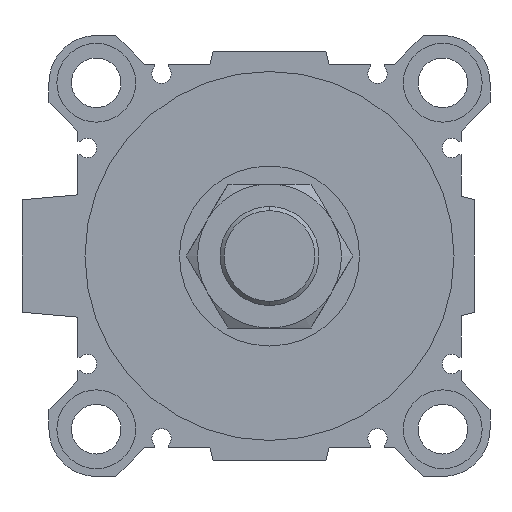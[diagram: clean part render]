
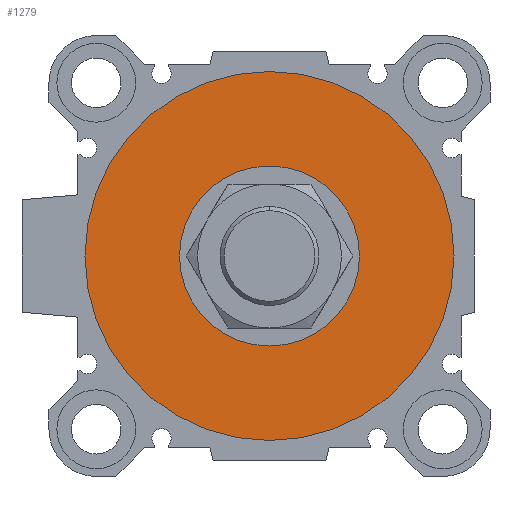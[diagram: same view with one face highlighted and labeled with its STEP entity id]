
A CAD part, left-side view. The second image highlights one B-rep face of the part: STEP entity #1279.
In plain terms, the highlighted planar face has unit normal (-1, 0, 0).
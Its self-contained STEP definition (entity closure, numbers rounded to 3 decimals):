
#18 = ORIENTED_EDGE ( 'NONE', *, *, #1183, .F. ) ;
#321 = VERTEX_POINT ( 'NONE', #3731 ) ;
#400 = AXIS2_PLACEMENT_3D ( 'NONE', #7175, #3201, #4312 ) ;
#619 = VERTEX_POINT ( 'NONE', #3185 ) ;
#658 = CARTESIAN_POINT ( 'NONE',  ( 5., 0., 0. ) ) ;
#703 = ORIENTED_EDGE ( 'NONE', *, *, #904, .T. ) ;
#904 = EDGE_CURVE ( 'NONE', #619, #4859, #2108, .T. ) ;
#1183 = EDGE_CURVE ( 'NONE', #321, #5778, #2730, .T. ) ;
#1279 = ADVANCED_FACE ( 'NONE', ( #3723, #1998 ), #4221, .F. ) ;
#1344 = DIRECTION ( 'NONE',  ( 0., 0., -1. ) ) ;
#1658 = CIRCLE ( 'NONE', #4966, 20. ) ;
#1998 = FACE_BOUND ( 'NONE', #6665, .T. ) ;
#2108 = CIRCLE ( 'NONE', #400, 20. ) ;
#2730 = CIRCLE ( 'NONE', #5905, 41. ) ;
#2855 = EDGE_CURVE ( 'NONE', #4859, #619, #1658, .T. ) ;
#3185 = CARTESIAN_POINT ( 'NONE',  ( 5., 0., 20. ) ) ;
#3201 = DIRECTION ( 'NONE',  ( 1., 0., 0. ) ) ;
#3291 = CARTESIAN_POINT ( 'NONE',  ( 5., 0., 0. ) ) ;
#3723 = FACE_OUTER_BOUND ( 'NONE', #5619, .T. ) ;
#3731 = CARTESIAN_POINT ( 'NONE',  ( 5., 0., 41. ) ) ;
#3758 = DIRECTION ( 'NONE',  ( 0., 1., 0. ) ) ;
#3937 = DIRECTION ( 'NONE',  ( 0., 0., -1. ) ) ;
#4204 = CIRCLE ( 'NONE', #5562, 41. ) ;
#4221 = PLANE ( 'NONE',  #6025 ) ;
#4235 = EDGE_CURVE ( 'NONE', #5778, #321, #4204, .T. ) ;
#4312 = DIRECTION ( 'NONE',  ( 0., 0., -1. ) ) ;
#4343 = CARTESIAN_POINT ( 'NONE',  ( 5., 0., 0. ) ) ;
#4513 = ORIENTED_EDGE ( 'NONE', *, *, #2855, .T. ) ;
#4804 = CARTESIAN_POINT ( 'NONE',  ( 5., 0., -41. ) ) ;
#4859 = VERTEX_POINT ( 'NONE', #5764 ) ;
#4915 = DIRECTION ( 'NONE',  ( 1., 0., 0. ) ) ;
#4966 = AXIS2_PLACEMENT_3D ( 'NONE', #3291, #7350, #3937 ) ;
#5302 = DIRECTION ( 'NONE',  ( 1., 0., 0. ) ) ;
#5562 = AXIS2_PLACEMENT_3D ( 'NONE', #658, #5302, #7057 ) ;
#5619 = EDGE_LOOP ( 'NONE', ( #18, #7284 ) ) ;
#5764 = CARTESIAN_POINT ( 'NONE',  ( 5., 0., -20. ) ) ;
#5778 = VERTEX_POINT ( 'NONE', #4804 ) ;
#5905 = AXIS2_PLACEMENT_3D ( 'NONE', #7295, #4915, #1344 ) ;
#6025 = AXIS2_PLACEMENT_3D ( 'NONE', #4343, #6674, #3758 ) ;
#6665 = EDGE_LOOP ( 'NONE', ( #703, #4513 ) ) ;
#6674 = DIRECTION ( 'NONE',  ( 1., 0., 0. ) ) ;
#7057 = DIRECTION ( 'NONE',  ( 0., 0., -1. ) ) ;
#7175 = CARTESIAN_POINT ( 'NONE',  ( 5., 0., 0. ) ) ;
#7284 = ORIENTED_EDGE ( 'NONE', *, *, #4235, .F. ) ;
#7295 = CARTESIAN_POINT ( 'NONE',  ( 5., 0., 0. ) ) ;
#7350 = DIRECTION ( 'NONE',  ( 1., 0., 0. ) ) ;
